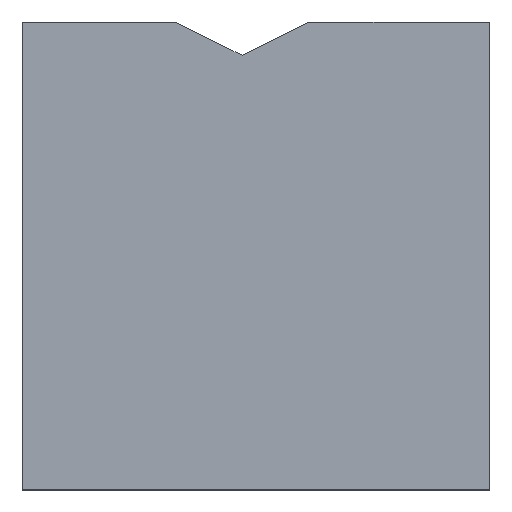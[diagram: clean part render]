
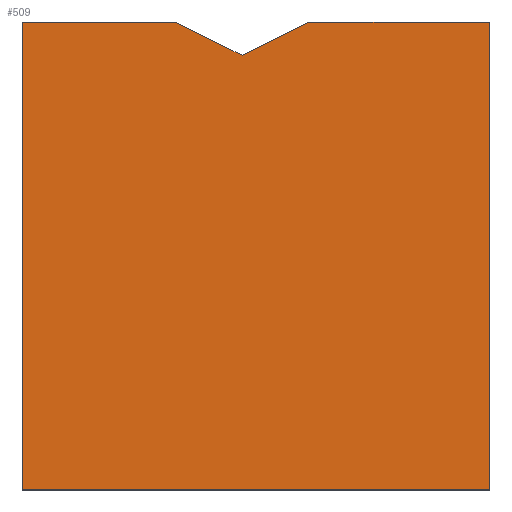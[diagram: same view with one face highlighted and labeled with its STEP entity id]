
A CAD part, top view. The second image highlights one B-rep face of the part: STEP entity #509.
In plain terms, the highlighted planar face has unit normal (0, 0, 1).
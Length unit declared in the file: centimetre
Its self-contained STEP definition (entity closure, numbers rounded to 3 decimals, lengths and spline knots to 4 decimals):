
#7 = VECTOR ( 'NONE', #211, 100. ) ;
#35 = ORIENTED_EDGE ( 'NONE', *, *, #109, .T. ) ;
#51 = DIRECTION ( 'NONE',  ( 0.894, -0.448, 0. ) ) ;
#52 = DIRECTION ( 'NONE',  ( -1., 0., 0. ) ) ;
#57 = LINE ( 'NONE', #231, #437 ) ;
#60 = VECTOR ( 'NONE', #52, 100. ) ;
#79 = LINE ( 'NONE', #215, #429 ) ;
#82 = EDGE_CURVE ( 'NONE', #390, #89, #137, .T. ) ;
#83 = ORIENTED_EDGE ( 'NONE', *, *, #88, .F. ) ;
#88 = EDGE_CURVE ( 'NONE', #220, #413, #57, .T. ) ;
#89 = VERTEX_POINT ( 'NONE', #190 ) ;
#93 = CARTESIAN_POINT ( 'NONE',  ( 0., 0., 1000. ) ) ;
#104 = DIRECTION ( 'NONE',  ( 0., 0., 1. ) ) ;
#109 = EDGE_CURVE ( 'NONE', #290, #252, #79, .T. ) ;
#116 = EDGE_LOOP ( 'NONE', ( #83, #258, #486, #168, #35, #507, #216 ) ) ;
#134 = LINE ( 'NONE', #515, #339 ) ;
#137 = LINE ( 'NONE', #316, #60 ) ;
#139 = VERTEX_POINT ( 'NONE', #454 ) ;
#168 = ORIENTED_EDGE ( 'NONE', *, *, #260, .T. ) ;
#189 = LINE ( 'NONE', #311, #546 ) ;
#190 = CARTESIAN_POINT ( 'NONE',  ( 0., 1000., 1000. ) ) ;
#200 = EDGE_CURVE ( 'NONE', #252, #139, #412, .T. ) ;
#211 = DIRECTION ( 'NONE',  ( 0., 1., 0. ) ) ;
#215 = CARTESIAN_POINT ( 'NONE',  ( 0., 0., 1000. ) ) ;
#216 = ORIENTED_EDGE ( 'NONE', *, *, #328, .T. ) ;
#219 = DIRECTION ( 'NONE',  ( 1., 0., 0. ) ) ;
#220 = VERTEX_POINT ( 'NONE', #464 ) ;
#231 = CARTESIAN_POINT ( 'NONE',  ( 470.1856, 928.5967, 1000. ) ) ;
#236 = CARTESIAN_POINT ( 'NONE',  ( 0., 0., 1000. ) ) ;
#252 = VERTEX_POINT ( 'NONE', #274 ) ;
#258 = ORIENTED_EDGE ( 'NONE', *, *, #271, .F. ) ;
#260 = EDGE_CURVE ( 'NONE', #89, #290, #475, .T. ) ;
#271 = EDGE_CURVE ( 'NONE', #390, #220, #189, .T. ) ;
#274 = CARTESIAN_POINT ( 'NONE',  ( 1000., 0., 1000. ) ) ;
#290 = VERTEX_POINT ( 'NONE', #93 ) ;
#292 = CARTESIAN_POINT ( 'NONE',  ( 612.7402, 1000., 1000. ) ) ;
#295 = CARTESIAN_POINT ( 'NONE',  ( 1000., 1000., 1000. ) ) ;
#297 = VECTOR ( 'NONE', #313, 100. ) ;
#311 = CARTESIAN_POINT ( 'NONE',  ( 327.6311, 1000., 1000. ) ) ;
#313 = DIRECTION ( 'NONE',  ( 0., -1., 0. ) ) ;
#316 = CARTESIAN_POINT ( 'NONE',  ( 0., 1000., 1000. ) ) ;
#322 = AXIS2_PLACEMENT_3D ( 'NONE', #236, #104, #397 ) ;
#328 = EDGE_CURVE ( 'NONE', #139, #413, #134, .T. ) ;
#333 = CARTESIAN_POINT ( 'NONE',  ( 327.6311, 1000., 1000. ) ) ;
#339 = VECTOR ( 'NONE', #476, 100. ) ;
#390 = VERTEX_POINT ( 'NONE', #333 ) ;
#397 = DIRECTION ( 'NONE',  ( 1., 0., 0. ) ) ;
#399 = DIRECTION ( 'NONE',  ( 0.894, 0.448, 0. ) ) ;
#412 = LINE ( 'NONE', #295, #7 ) ;
#413 = VERTEX_POINT ( 'NONE', #292 ) ;
#429 = VECTOR ( 'NONE', #219, 100. ) ;
#435 = CARTESIAN_POINT ( 'NONE',  ( 0., 1000., 1000. ) ) ;
#437 = VECTOR ( 'NONE', #399, 100. ) ;
#443 = FACE_OUTER_BOUND ( 'NONE', #116, .T. ) ;
#454 = CARTESIAN_POINT ( 'NONE',  ( 1000., 1000., 1000. ) ) ;
#464 = CARTESIAN_POINT ( 'NONE',  ( 470.1856, 928.5967, 1000. ) ) ;
#475 = LINE ( 'NONE', #435, #297 ) ;
#476 = DIRECTION ( 'NONE',  ( -1., 0., 0. ) ) ;
#486 = ORIENTED_EDGE ( 'NONE', *, *, #82, .T. ) ;
#487 = PLANE ( 'NONE',  #322 ) ;
#507 = ORIENTED_EDGE ( 'NONE', *, *, #200, .T. ) ;
#509 = ADVANCED_FACE ( 'NONE', ( #443 ), #487, .T. ) ;
#515 = CARTESIAN_POINT ( 'NONE',  ( 0., 1000., 1000. ) ) ;
#546 = VECTOR ( 'NONE', #51, 100. ) ;
